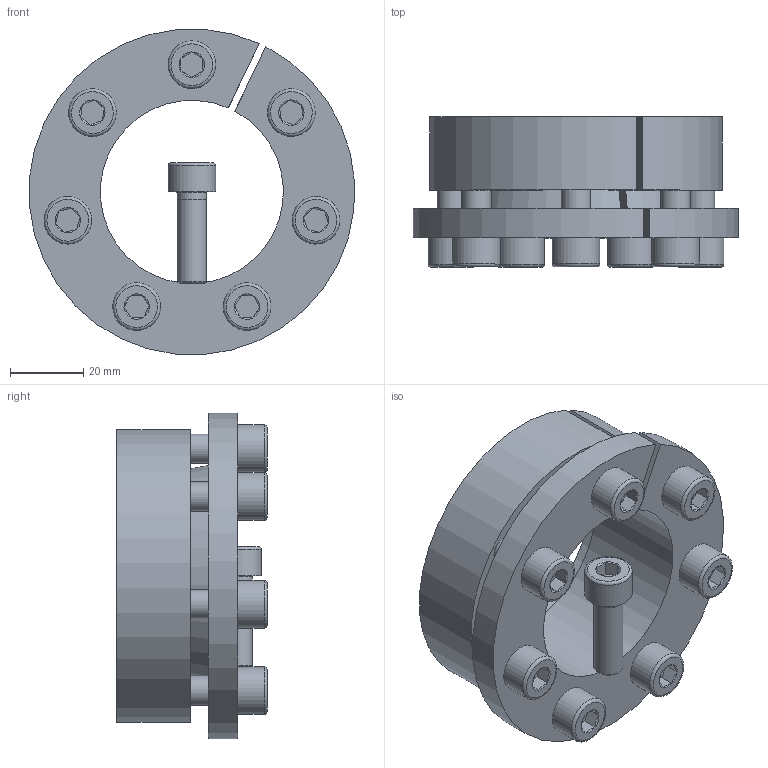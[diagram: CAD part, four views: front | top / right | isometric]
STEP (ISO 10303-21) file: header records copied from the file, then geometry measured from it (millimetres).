
FILE_DESCRIPTION( ( 'Unknown' ), '1' );
FILE_NAME( 'C:/Dokumente und Einstellungen/Sven/Desktop/homepage/cad - homepage/KBS16/KBS 16 - 50 x 80.stp', 'Unknown', ( 'Unknown' ), ( 'Unknown' ), 'XStep 1.0', 'Unknown', ' ' );
FILE_SCHEMA( ( 'automotive_design' ) );
Length unit declared in the file: millimetre
Products named in the file (3): Assem1; KBS 16 - 50 x 80; ISO EN DIN 4762 M8x25
Bounding box: 88.77 x 41 x 88.75 mm (x, y, z)
Volume: 193975 mm3; surface area: 71869.8 mm2
Topology: 10 solids, 10 shells, 252 faces, 502 edges, 302 vertices
Faces by surface type: plane 110, cylinder 66, cone 60, torus 16
Full cylindrical faces by diameter (mm): 7 x8, 8 x44, 13 x8
Entity records: 1708 total; most frequent: CARTESIAN_POINT 282, DIRECTION 258, ORIENTED_EDGE 186, AXIS2_PLACEMENT_3D 115, EDGE_LOOP 104, EDGE_CURVE 93, FACE_OUTER_BOUND 71, VERTEX_POINT 71
